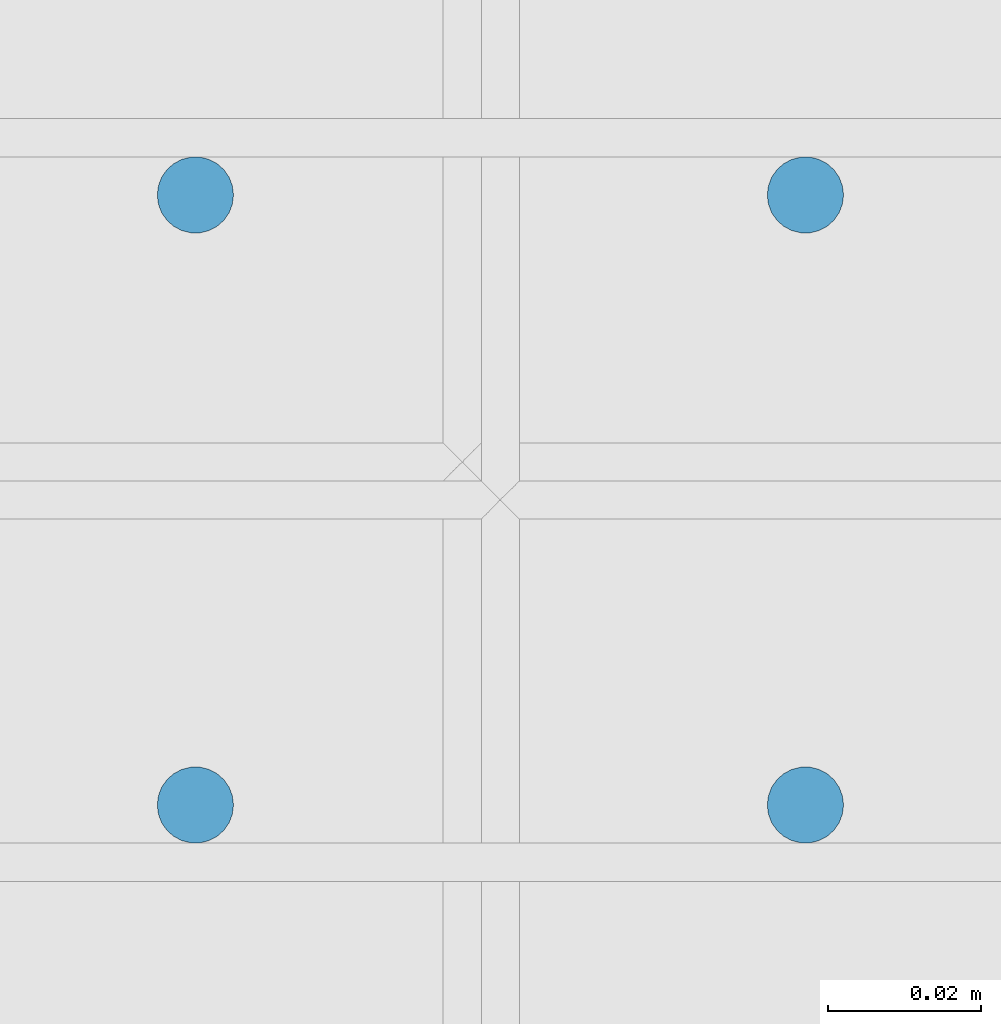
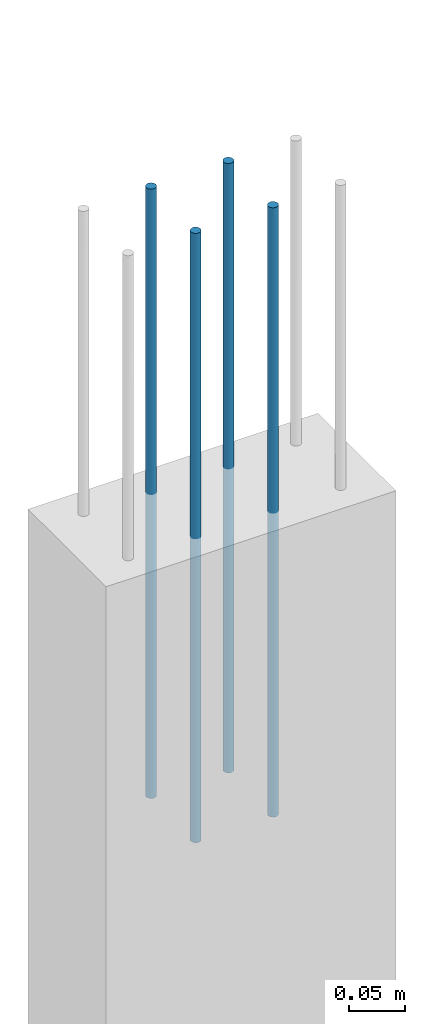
# One storey, part 99 of 119: 4 reinforcing bars.
"""IFC4 building model written with IfcOpenShell, lengths in centimetres."""

from ifc_helpers import new_model, entity, si_unit, derived_unit, frame, origin_with_axes, place, context, project, spatial, element, save


model = new_model("IFC4")

# Units and contexts
model_context = context("Model", 3, precision=1e-05, world=origin_with_axes(), identifier="Body")
ifc_project = project(units=[si_unit("LENGTHUNIT", "METRE", prefix="CENTI"), si_unit("VOLUMEUNIT", "CUBIC_METRE"), si_unit("AREAUNIT", "SQUARE_METRE"), si_unit("POWERUNIT", "WATT"), si_unit("LUMINOUSFLUXUNIT", "LUMEN"), si_unit("ELECTRICCURRENTUNIT", "AMPERE"), si_unit("PRESSUREUNIT", "PASCAL", prefix="KILO"), si_unit("MASSUNIT", "GRAM", prefix="KILO"), si_unit("PLANEANGLEUNIT", "RADIAN"), derived_unit("VOLUMETRICFLOWRATEUNIT", [(si_unit("LENGTHUNIT", "METRE"), 3), (si_unit("TIMEUNIT", "SECOND"), -1)])], contexts=[model_context])

# Site, building, storey
site_placement = place(None, frame((-4000.0, 0.0, 0.0), z_axis=(0.0, 0.0, 1.0), x_axis=(1.0, 0.0, 0.0)))
site = spatial("IfcSite", under=ifc_project, at=site_placement, Name="PADRÃO")
building_placement = place(site_placement, frame((0.0, 0.0, -14.0)))
building = spatial("IfcBuilding", under=site, at=building_placement, Name="CRECHE PRÉ-ESCOLA TIPO 2")
storey_placement = place(building_placement, origin_with_axes())
storey = spatial("IfcBuildingStorey", under=building, at=storey_placement, Name="FUNDAÇÃO", CompositionType="ELEMENT", Elevation=-14.0)

# Reinforcing bars
for number, where, z_axis, x_axis, name in (
    (1, (3380.0, 2681.02, 33.3573001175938), (0.0, 0.0, 1.0), (1.0, 0.0, 0.0), "P69 - Longitudinal"),
    (2, (3372.0, 2689.02, 33.3573001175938), (0.0, 0.0, 1.0), (1.0, 0.0, 0.0), "P69 - Longitudinal"),
    (3, (3380.0, 2689.02, 33.3573001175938), (0.0, 0.0, 1.0), (1.0, 0.0, 0.0), "P69 - Longitudinal"),
    (4, (3372.0, 2681.02, 33.3573001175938), (0.0, 0.0, 1.0), (1.0, 0.0, 0.0), "P69 - Longitudinal"),
):
    element("IfcReinforcingBar", number, at=place(storey_placement, frame(where, z_axis=z_axis, x_axis=x_axis)), inside=storey, Name=name, BarLength=0.0, CrossSectionArea=7.853981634e-05, NominalDiameter=1.0, PredefinedType="MAIN", context=model_context, shape_type="AdvancedSweptSolid", body=[
        entity("IfcSweptDiskSolid", entity("IfcCompositeCurve", [entity("IfcCompositeCurveSegment", "CONTINUOUS", True, entity("IfcPolyline", [entity("IfcCartesianPoint", [0.0, 0.0, -66.7146002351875]), entity("IfcCartesianPoint", [0.0, 0.0, 0.0])]))], False), 0.5),
    ])

save(model, "model.ifc")
